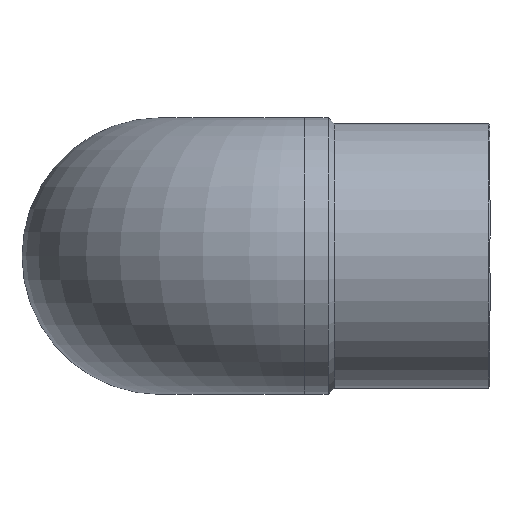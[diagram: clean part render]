
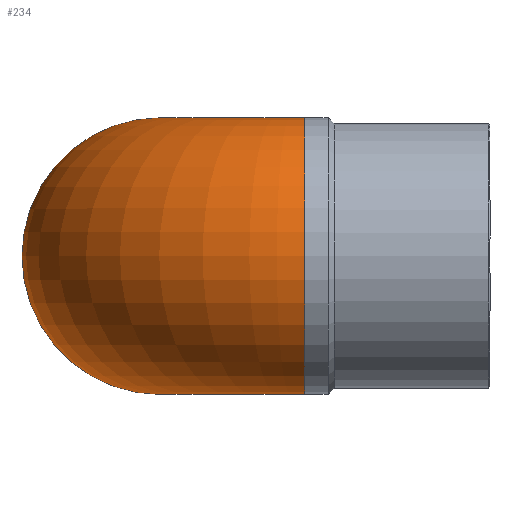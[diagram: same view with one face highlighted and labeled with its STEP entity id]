
A CAD part, top view. The second image highlights one B-rep face of the part: STEP entity #234.
In plain terms, the highlighted toroidal (fillet/blend) face has major radius 98 mm and minor radius 94 mm.
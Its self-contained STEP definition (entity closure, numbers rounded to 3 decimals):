
#21=TOROIDAL_SURFACE('',#279,98.,94.);
#69=ORIENTED_EDGE('',*,*,#99,.F.);
#70=ORIENTED_EDGE('',*,*,#98,.T.);
#98=EDGE_CURVE('',#120,#120,#138,.F.);
#99=EDGE_CURVE('',#121,#121,#139,.F.);
#120=VERTEX_POINT('',#441);
#121=VERTEX_POINT('',#444);
#138=CIRCLE('',#278,94.);
#139=CIRCLE('',#280,94.);
#167=EDGE_LOOP('',(#69));
#168=EDGE_LOOP('',(#70));
#202=FACE_BOUND('',#167,.T.);
#203=FACE_BOUND('',#168,.T.);
#234=ADVANCED_FACE('',(#202,#203),#21,.T.);
#278=AXIS2_PLACEMENT_3D('',#440,#342,#343);
#279=AXIS2_PLACEMENT_3D('',#442,#344,#345);
#280=AXIS2_PLACEMENT_3D('',#443,#346,#347);
#342=DIRECTION('',(0.,0.,-1.));
#343=DIRECTION('',(1.,0.,0.));
#344=DIRECTION('',(0.,1.,0.));
#345=DIRECTION('',(0.,0.,1.));
#346=DIRECTION('',(-1.,0.,0.));
#347=DIRECTION('',(0.,0.,-1.));
#440=CARTESIAN_POINT('',(0.,0.,126.));
#441=CARTESIAN_POINT('',(94.,0.,126.));
#442=CARTESIAN_POINT('',(98.,0.,126.));
#443=CARTESIAN_POINT('',(98.,0.,224.));
#444=CARTESIAN_POINT('',(98.,0.,130.));
